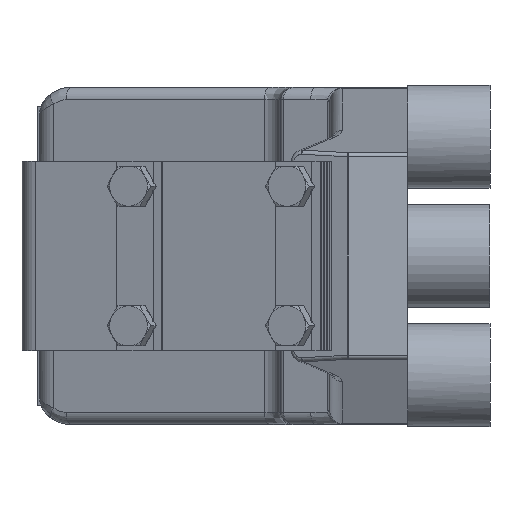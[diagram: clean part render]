
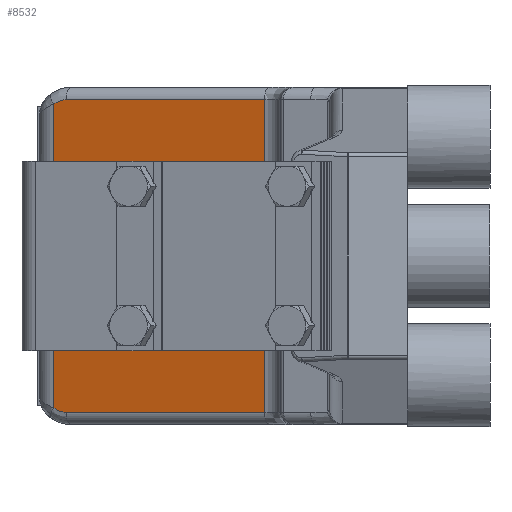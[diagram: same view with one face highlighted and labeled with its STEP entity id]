
A CAD part, left-side view. The second image highlights one B-rep face of the part: STEP entity #8532.
In plain terms, the highlighted planar face has unit normal (-0.94, 0.342, 0).
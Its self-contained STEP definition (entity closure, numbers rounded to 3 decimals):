
#215 = DIRECTION ( 'NONE',  ( -0.94, 0.342, 0. ) ) ;
#296 = CARTESIAN_POINT ( 'NONE',  ( -10.071, 11.071, -38. ) ) ;
#362 = VERTEX_POINT ( 'NONE', #17737 ) ;
#636 = B_SPLINE_CURVE_WITH_KNOTS ( 'NONE', 3,
 ( #15810, #2993, #22220, #17883, #11477, #24296 ),
 .UNSPECIFIED., .F., .F.,
 ( 4, 2, 4 ),
 ( 0., 0.5, 1. ),
 .UNSPECIFIED. ) ;
#2085 = DIRECTION ( 'NONE',  ( -0.342, -0.94, 0. ) ) ;
#2349 = DIRECTION ( 'NONE',  ( 0.342, 0.94, 0. ) ) ;
#2484 = CARTESIAN_POINT ( 'NONE',  ( 7.46, 59.239, 38. ) ) ;
#2993 = CARTESIAN_POINT ( 'NONE',  ( 7.657, 59.781, -38. ) ) ;
#3236 = CARTESIAN_POINT ( 'NONE',  ( -5.302, 24.174, 0. ) ) ;
#3834 = CARTESIAN_POINT ( 'NONE',  ( 8.562, 62.265, -36.98 ) ) ;
#4271 = ORIENTED_EDGE ( 'NONE', *, *, #19850, .F. ) ;
#4393 = AXIS2_PLACEMENT_3D ( 'NONE', #10685, #10028, #2349 ) ;
#4479 = DIRECTION ( 'NONE',  ( 0., 0., 1. ) ) ;
#4535 = CARTESIAN_POINT ( 'NONE',  ( 0.94, 41.324, 0. ) ) ;
#4771 = VERTEX_POINT ( 'NONE', #9707 ) ;
#6102 = ORIENTED_EDGE ( 'NONE', *, *, #22854, .F. ) ;
#6170 = B_SPLINE_CURVE_WITH_KNOTS ( 'NONE', 3,
 ( #8848, #24445, #7270, #22229, #20120, #2484 ),
 .UNSPECIFIED., .F., .F.,
 ( 4, 2, 4 ),
 ( 0., 0.5, 1. ),
 .UNSPECIFIED. ) ;
#6688 = CARTESIAN_POINT ( 'NONE',  ( 8.562, 62.265, 41. ) ) ;
#6814 = EDGE_CURVE ( 'NONE', #24895, #14084, #26187, .T. ) ;
#6884 = VECTOR ( 'NONE', #4479, 1000. ) ;
#6892 = ORIENTED_EDGE ( 'NONE', *, *, #6814, .F. ) ;
#7022 = VERTEX_POINT ( 'NONE', #14792 ) ;
#7084 = CARTESIAN_POINT ( 'NONE',  ( -10.071, 11.071, 41. ) ) ;
#7270 = CARTESIAN_POINT ( 'NONE',  ( 8.228, 61.349, 37.565 ) ) ;
#8532 = ADVANCED_FACE ( 'NONE', ( #21451, #19074 ), #20650, .F. ) ;
#8535 = DIRECTION ( 'NONE',  ( -0.342, -0.94, 0. ) ) ;
#8783 = ORIENTED_EDGE ( 'NONE', *, *, #17933, .F. ) ;
#8848 = CARTESIAN_POINT ( 'NONE',  ( 8.562, 62.265, 36.98 ) ) ;
#9414 = LINE ( 'NONE', #18228, #12818 ) ;
#9707 = CARTESIAN_POINT ( 'NONE',  ( -10.071, 11.071, 38. ) ) ;
#10028 = DIRECTION ( 'NONE',  ( 0.94, -0.342, 0. ) ) ;
#10685 = CARTESIAN_POINT ( 'NONE',  ( 9.999, 66.213, 41. ) ) ;
#11396 = VECTOR ( 'NONE', #24114, 1000. ) ;
#11477 = CARTESIAN_POINT ( 'NONE',  ( 8.405, 61.834, -37.308 ) ) ;
#12147 = AXIS2_PLACEMENT_3D ( 'NONE', #19363, #20907, #2085 ) ;
#12548 = ORIENTED_EDGE ( 'NONE', *, *, #25607, .F. ) ;
#12818 = VECTOR ( 'NONE', #26994, 1000. ) ;
#14084 = VERTEX_POINT ( 'NONE', #15344 ) ;
#14792 = CARTESIAN_POINT ( 'NONE',  ( 8.562, 62.265, 36.98 ) ) ;
#15082 = LINE ( 'NONE', #6688, #6884 ) ;
#15344 = CARTESIAN_POINT ( 'NONE',  ( 7.182, 58.473, 0. ) ) ;
#15619 = VERTEX_POINT ( 'NONE', #296 ) ;
#15810 = CARTESIAN_POINT ( 'NONE',  ( 7.46, 59.239, -38. ) ) ;
#16188 = VERTEX_POINT ( 'NONE', #26849 ) ;
#16226 = EDGE_LOOP ( 'NONE', ( #6892, #6102 ) ) ;
#16677 = VERTEX_POINT ( 'NONE', #3834 ) ;
#17224 = EDGE_CURVE ( 'NONE', #16188, #4771, #9414, .T. ) ;
#17287 = AXIS2_PLACEMENT_3D ( 'NONE', #4535, #215, #8535 ) ;
#17694 = LINE ( 'NONE', #7084, #11396 ) ;
#17737 = CARTESIAN_POINT ( 'NONE',  ( 7.46, 59.239, -38. ) ) ;
#17883 = CARTESIAN_POINT ( 'NONE',  ( 8.228, 61.349, -37.565 ) ) ;
#17933 = EDGE_CURVE ( 'NONE', #362, #16677, #636, .T. ) ;
#18156 = EDGE_CURVE ( 'NONE', #15619, #362, #26533, .T. ) ;
#18186 = DIRECTION ( 'NONE',  ( 0.342, 0.94, 0. ) ) ;
#18228 = CARTESIAN_POINT ( 'NONE',  ( -36.951, -62.78, 38. ) ) ;
#19074 = FACE_BOUND ( 'NONE', #16226, .T. ) ;
#19363 = CARTESIAN_POINT ( 'NONE',  ( 0.94, 41.324, 0. ) ) ;
#19750 = EDGE_LOOP ( 'NONE', ( #12548, #4271, #8783, #22283, #23266, #24207 ) ) ;
#19850 = EDGE_CURVE ( 'NONE', #16677, #7022, #15082, .T. ) ;
#20120 = CARTESIAN_POINT ( 'NONE',  ( 7.657, 59.781, 38. ) ) ;
#20650 = PLANE ( 'NONE',  #4393 ) ;
#20907 = DIRECTION ( 'NONE',  ( -0.94, 0.342, 0. ) ) ;
#21451 = FACE_OUTER_BOUND ( 'NONE', #19750, .T. ) ;
#22104 = CARTESIAN_POINT ( 'NONE',  ( 9.999, 66.213, -38. ) ) ;
#22220 = CARTESIAN_POINT ( 'NONE',  ( 7.855, 60.323, -37.911 ) ) ;
#22229 = CARTESIAN_POINT ( 'NONE',  ( 7.855, 60.323, 37.911 ) ) ;
#22283 = ORIENTED_EDGE ( 'NONE', *, *, #18156, .F. ) ;
#22854 = EDGE_CURVE ( 'NONE', #14084, #24895, #24588, .T. ) ;
#23266 = ORIENTED_EDGE ( 'NONE', *, *, #27410, .T. ) ;
#24114 = DIRECTION ( 'NONE',  ( 0., 0., 1. ) ) ;
#24193 = VECTOR ( 'NONE', #18186, 1000. ) ;
#24207 = ORIENTED_EDGE ( 'NONE', *, *, #17224, .F. ) ;
#24296 = CARTESIAN_POINT ( 'NONE',  ( 8.562, 62.265, -36.98 ) ) ;
#24445 = CARTESIAN_POINT ( 'NONE',  ( 8.405, 61.834, 37.308 ) ) ;
#24588 = CIRCLE ( 'NONE', #12147, 18.25 ) ;
#24895 = VERTEX_POINT ( 'NONE', #3236 ) ;
#25607 = EDGE_CURVE ( 'NONE', #7022, #16188, #6170, .T. ) ;
#26187 = CIRCLE ( 'NONE', #17287, 18.25 ) ;
#26533 = LINE ( 'NONE', #22104, #24193 ) ;
#26849 = CARTESIAN_POINT ( 'NONE',  ( 7.46, 59.239, 38. ) ) ;
#26994 = DIRECTION ( 'NONE',  ( -0.342, -0.94, 0. ) ) ;
#27410 = EDGE_CURVE ( 'NONE', #15619, #4771, #17694, .T. ) ;
